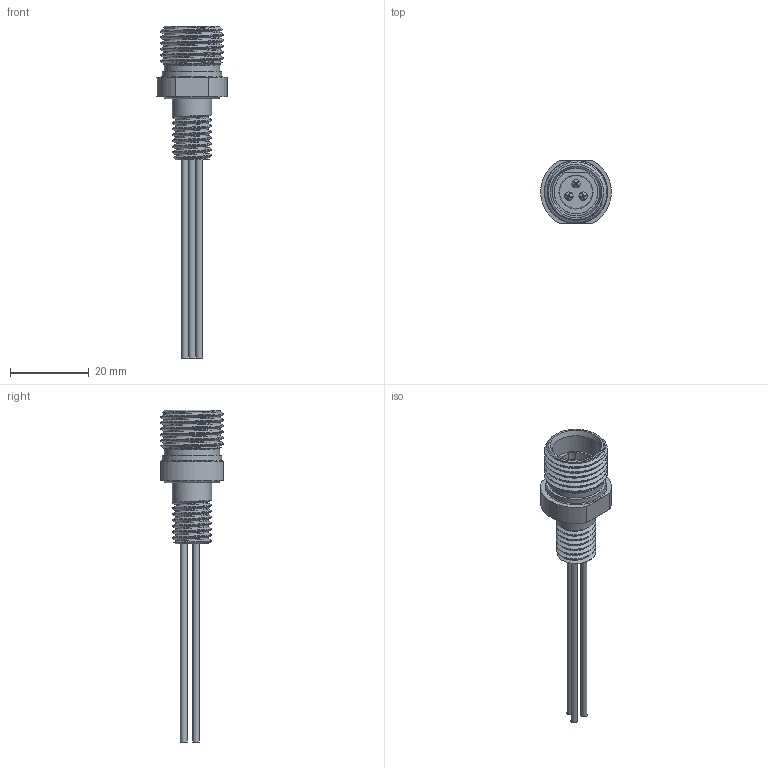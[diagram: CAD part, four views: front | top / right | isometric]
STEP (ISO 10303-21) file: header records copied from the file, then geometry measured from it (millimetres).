
FILE_DESCRIPTION (( 'STEP AP203' ), '1' );
FILE_NAME ('COB-113P0 Bulkhead 3 Pin Power.STEP', '2022-04-12T21:42:46', ( '' ), ( '' ), 'SwSTEP 2.0', 'SolidWorks 2020', '' );
FILE_SCHEMA (( 'CONFIG_CONTROL_DESIGN' ));
Length unit declared in the file: millimetre
Products named in the file (1): COB-113P0 Bulkhead 3 Pin Power
Bounding box: 17.94 x 16 x 84.25 mm (x, y, z)
Volume: 3426.5 mm3; surface area: 5059.9 mm2
Topology: 3 solids, 3 shells, 129 faces, 324 edges, 215 vertices
Faces by surface type: plane 60, cylinder 31, cone 18, torus 14, bspline 6
Full cylindrical faces by diameter (mm): 1.7 x3, 1.9 x3, 6.8 x1, 7 x1, 7.74 x1, 8.24 x1, 8.4 x1, 9.95 x7, 10.7 x1, 11.608 x1, 12.1 x1, 14 x1, 15.1 x1, 15.2 x1
Entity records: 7842 total; most frequent: CARTESIAN_POINT 5112, ORIENTED_EDGE 534, DIRECTION 523, EDGE_CURVE 267, AXIS2_PLACEMENT_3D 213, VERTEX_POINT 190, EDGE_LOOP 163, FACE_OUTER_BOUND 140
